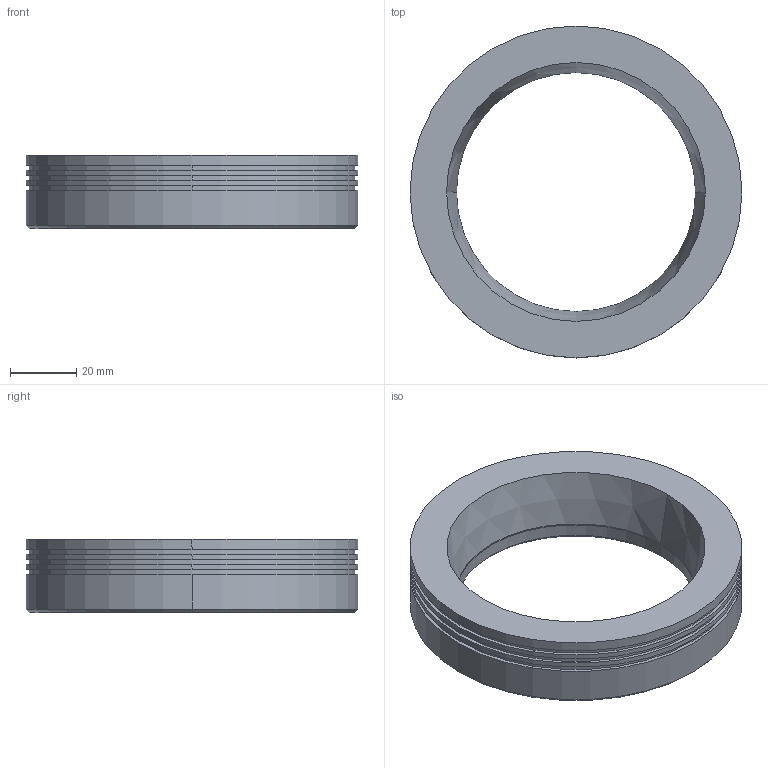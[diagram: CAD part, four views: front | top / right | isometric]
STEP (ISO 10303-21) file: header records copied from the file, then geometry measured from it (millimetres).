
FILE_DESCRIPTION((''),'2;1');
FILE_NAME('DRL7030','2020-03-28T',('ASUS'),(''),'PRO/ENGINEER BY PARAMETRIC TECHNOLOGY CORPORATION, 2008380','PRO/ENGINEER BY PARAMETRIC TECHNOLOGY CORPORATION, 2008380','');
FILE_SCHEMA(('CONFIG_CONTROL_DESIGN'));
Length unit declared in the file: millimetre
Products named in the file (1): DRL7030
Bounding box: 100 x 100 x 22 mm (x, y, z)
Volume: 75448.7 mm3; surface area: 20933.2 mm2
Topology: 1 solids, 5 shells, 68 faces, 152 edges, 92 vertices
Faces by surface type: cylinder 32, cone 22, plane 12, torus 2
Entity records: 1901 total; most frequent: DIRECTION 372, CARTESIAN_POINT 305, ORIENTED_EDGE 272, AXIS2_PLACEMENT_3D 159, EDGE_CURVE 144, VERTEX_POINT 92, CIRCLE 90, EDGE_LOOP 84
